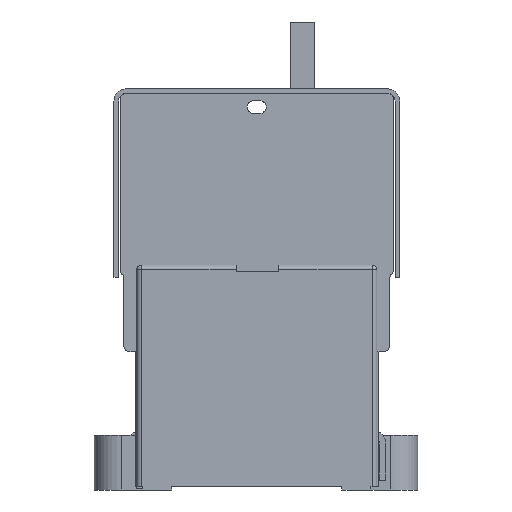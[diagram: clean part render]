
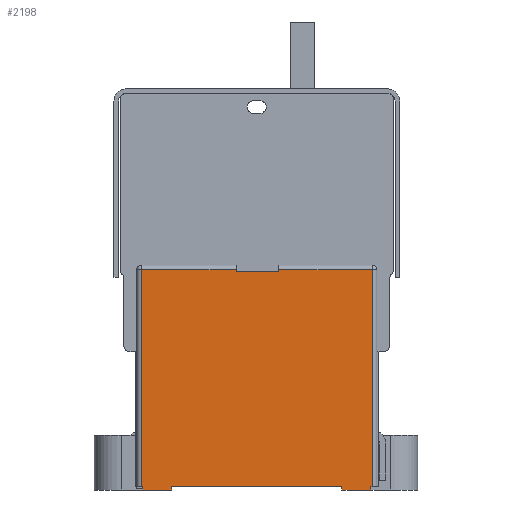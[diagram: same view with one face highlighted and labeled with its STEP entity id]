
A CAD part, left-side view. The second image highlights one B-rep face of the part: STEP entity #2198.
In plain terms, the highlighted planar face has unit normal (-1, 0, 0).
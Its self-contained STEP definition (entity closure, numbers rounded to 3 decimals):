
#814=PLANE('',#23670);
#2198=ADVANCED_FACE('',(#3624),#814,.F.);
#3624=FACE_OUTER_BOUND('',#4926,.T.);
#4926=EDGE_LOOP('',(#15285,#15286,#15287,#15288,#15289,#15290,#15291,#15292,
#15293,#15294,#15295,#15296,#15297,#15298,#15299,#15300));
#6944=LINE('',#35435,#9264);
#6946=LINE('',#35441,#9266);
#7016=LINE('',#35753,#9336);
#7032=LINE('',#35833,#9352);
#7067=LINE('',#35932,#9387);
#7072=LINE('',#35944,#9392);
#7074=LINE('',#35947,#9394);
#7080=LINE('',#35960,#9400);
#7219=LINE('',#36250,#9539);
#7220=LINE('',#36254,#9540);
#7221=LINE('',#36255,#9541);
#7222=LINE('',#36257,#9542);
#7223=LINE('',#36259,#9543);
#7224=LINE('',#36260,#9544);
#7225=LINE('',#36261,#9545);
#7226=LINE('',#36263,#9546);
#9264=VECTOR('',#28675,1.);
#9266=VECTOR('',#28681,1.);
#9336=VECTOR('',#28969,1.);
#9352=VECTOR('',#29081,1.);
#9387=VECTOR('',#29186,1.);
#9392=VECTOR('',#29193,1.);
#9394=VECTOR('',#29197,1.);
#9400=VECTOR('',#29205,1.);
#9539=VECTOR('',#29460,1.);
#9540=VECTOR('',#29465,1.);
#9541=VECTOR('',#29466,1.);
#9542=VECTOR('',#29467,1.);
#9543=VECTOR('',#29468,1.);
#9544=VECTOR('',#29469,1.);
#9545=VECTOR('',#29470,1.);
#9546=VECTOR('',#29471,1.);
#15285=ORIENTED_EDGE('',*,*,#21044,.F.);
#15286=ORIENTED_EDGE('',*,*,#20832,.T.);
#15287=ORIENTED_EDGE('',*,*,#20656,.T.);
#15288=ORIENTED_EDGE('',*,*,#21046,.F.);
#15289=ORIENTED_EDGE('',*,*,#20659,.T.);
#15290=ORIENTED_EDGE('',*,*,#20792,.T.);
#15291=ORIENTED_EDGE('',*,*,#21047,.T.);
#15292=ORIENTED_EDGE('',*,*,#21048,.T.);
#15293=ORIENTED_EDGE('',*,*,#21049,.F.);
#15294=ORIENTED_EDGE('',*,*,#20879,.F.);
#15295=ORIENTED_EDGE('',*,*,#20884,.T.);
#15296=ORIENTED_EDGE('',*,*,#21050,.T.);
#15297=ORIENTED_EDGE('',*,*,#20892,.F.);
#15298=ORIENTED_EDGE('',*,*,#20886,.F.);
#15299=ORIENTED_EDGE('',*,*,#21051,.T.);
#15300=ORIENTED_EDGE('',*,*,#21052,.T.);
#17743=VERTEX_POINT('',#35434);
#17744=VERTEX_POINT('',#35436);
#17746=VERTEX_POINT('',#35442);
#17747=VERTEX_POINT('',#35443);
#17835=VERTEX_POINT('',#35748);
#17836=VERTEX_POINT('',#35752);
#17882=VERTEX_POINT('',#35933);
#17883=VERTEX_POINT('',#35934);
#17887=VERTEX_POINT('',#35943);
#17888=VERTEX_POINT('',#35948);
#17889=VERTEX_POINT('',#35949);
#17892=VERTEX_POINT('',#35957);
#17987=VERTEX_POINT('',#36251);
#17988=VERTEX_POINT('',#36256);
#17989=VERTEX_POINT('',#36258);
#17990=VERTEX_POINT('',#36262);
#20656=EDGE_CURVE('',#17744,#17743,#6944,.T.);
#20659=EDGE_CURVE('',#17746,#17747,#6946,.T.);
#20792=EDGE_CURVE('',#17747,#17836,#7016,.T.);
#20832=EDGE_CURVE('',#17835,#17744,#7032,.T.);
#20879=EDGE_CURVE('',#17882,#17883,#7067,.T.);
#20884=EDGE_CURVE('',#17882,#17887,#7072,.T.);
#20886=EDGE_CURVE('',#17888,#17889,#7074,.T.);
#20892=EDGE_CURVE('',#17889,#17892,#7080,.T.);
#21044=EDGE_CURVE('',#17835,#17987,#7219,.T.);
#21046=EDGE_CURVE('',#17746,#17743,#7220,.T.);
#21047=EDGE_CURVE('',#17836,#17988,#7221,.T.);
#21048=EDGE_CURVE('',#17988,#17989,#7222,.T.);
#21049=EDGE_CURVE('',#17883,#17989,#7223,.T.);
#21050=EDGE_CURVE('',#17887,#17892,#7224,.T.);
#21051=EDGE_CURVE('',#17888,#17990,#7225,.T.);
#21052=EDGE_CURVE('',#17990,#17987,#7226,.T.);
#23670=AXIS2_PLACEMENT_3D('',#36264,#29472,#29473);
#28675=DIRECTION('',(0.,0.,-1.));
#28681=DIRECTION('',(0.,0.,1.));
#28969=DIRECTION('',(0.,1.,0.));
#29081=DIRECTION('',(0.,1.,0.));
#29186=DIRECTION('',(0.,1.,0.));
#29193=DIRECTION('',(0.,0.,1.));
#29197=DIRECTION('',(0.,1.,0.));
#29205=DIRECTION('',(0.,0.,1.));
#29460=DIRECTION('',(0.,0.,-1.));
#29465=DIRECTION('',(0.,-1.,0.));
#29466=DIRECTION('',(0.,0.,-1.));
#29467=DIRECTION('',(0.,-1.,0.));
#29468=DIRECTION('',(0.,0.,1.));
#29469=DIRECTION('',(0.,-1.,0.));
#29470=DIRECTION('',(0.,0.,1.));
#29471=DIRECTION('',(0.,-1.,0.));
#29472=DIRECTION('',(1.,0.,0.));
#29473=DIRECTION('',(0.,0.,-1.));
#35434=CARTESIAN_POINT('',(-69.,-31.985,67.));
#35435=CARTESIAN_POINT('',(-69.,-31.985,69.1));
#35436=CARTESIAN_POINT('',(-69.,-31.985,67.6));
#35441=CARTESIAN_POINT('',(-69.,-17.985,69.1));
#35442=CARTESIAN_POINT('',(-69.,-17.985,67.));
#35443=CARTESIAN_POINT('',(-69.,-17.985,67.6));
#35748=CARTESIAN_POINT('',(-69.,-62.735,67.6));
#35752=CARTESIAN_POINT('',(-69.,13.265,67.6));
#35753=CARTESIAN_POINT('',(-69.,13.265,67.6));
#35833=CARTESIAN_POINT('',(-69.,13.265,67.6));
#35932=CARTESIAN_POINT('',(-69.,3.265,-4.9));
#35933=CARTESIAN_POINT('',(-69.,3.265,-4.9));
#35934=CARTESIAN_POINT('',(-69.,12.765,-4.9));
#35943=CARTESIAN_POINT('',(-69.,3.265,-3.9));
#35944=CARTESIAN_POINT('',(-69.,3.265,-5.9));
#35947=CARTESIAN_POINT('',(-69.,-62.235,-4.9));
#35948=CARTESIAN_POINT('',(-69.,-62.235,-4.9));
#35949=CARTESIAN_POINT('',(-69.,-52.735,-4.9));
#35957=CARTESIAN_POINT('',(-69.,-52.735,-3.9));
#35960=CARTESIAN_POINT('',(-69.,-52.735,-5.9));
#36250=CARTESIAN_POINT('',(-69.,-62.735,69.1));
#36251=CARTESIAN_POINT('',(-69.,-62.735,-3.9));
#36254=CARTESIAN_POINT('',(-69.,12.765,67.));
#36255=CARTESIAN_POINT('',(-69.,13.265,69.1));
#36256=CARTESIAN_POINT('',(-69.,13.265,-3.9));
#36257=CARTESIAN_POINT('',(-69.,-62.235,-3.9));
#36258=CARTESIAN_POINT('',(-69.,12.765,-3.9));
#36259=CARTESIAN_POINT('',(-69.,12.765,-5.9));
#36260=CARTESIAN_POINT('',(-69.,-62.235,-3.9));
#36261=CARTESIAN_POINT('',(-69.,-62.235,-5.9));
#36262=CARTESIAN_POINT('',(-69.,-62.235,-3.9));
#36263=CARTESIAN_POINT('',(-69.,-62.235,-3.9));
#36264=CARTESIAN_POINT('',(-69.,-62.235,69.1));
